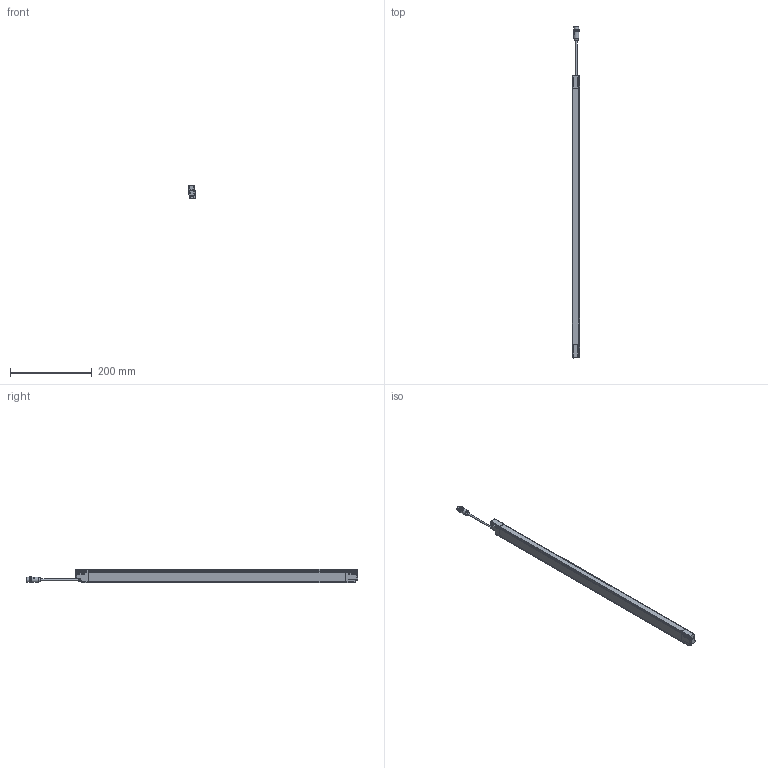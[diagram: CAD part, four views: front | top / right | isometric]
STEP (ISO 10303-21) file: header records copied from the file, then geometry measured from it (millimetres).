
FILE_DESCRIPTION(/* description */ (''),/* implementation_level */ '2;1');
FILE_NAME(/* name */ 'DSD-0638.stp',/* time_stamp */ '2015-02-23T17:33:07+01:00',/* author */ (''),/* organization */ (''),/* preprocessor_version */ 'ST-DEVELOPER v11',/* originating_system */ 'SIEMENS PLM Software NX 7.5',/* authorisation */ '');
FILE_SCHEMA (('AUTOMOTIVE_DESIGN { 1 0 10303 214 1 1 1 1 }'));
Length unit declared in the file: millimetre
Products named in the file (1): AP008120_00
Bounding box: 17.36 x 810.24 x 33.46 mm (x, y, z)
Surface area: 83922 mm2 (no closed solid volume)
Topology: 0 solids, 38 shells, 1047 faces, 3497 edges, 2375 vertices
Faces by surface type: cylinder 388, plane 295, bspline 155, torus 111, sphere 66, cone 32
Full cylindrical faces by diameter (mm): 1 x5, 1.2 x2, 2.6 x6, 4 x1, 8.3 x1, 9.4 x1, 10.4 x1, 12 x1, 13 x1, 13.5 x1, 14.5 x2
Entity records: 43837 total; most frequent: CARTESIAN_POINT 14231, DIRECTION 6344, ORIENTED_EDGE 5518, EDGE_CURVE 3385, AXIS2_PLACEMENT_3D 2411, VERTEX_POINT 2347, LINE 1522, VECTOR 1522
